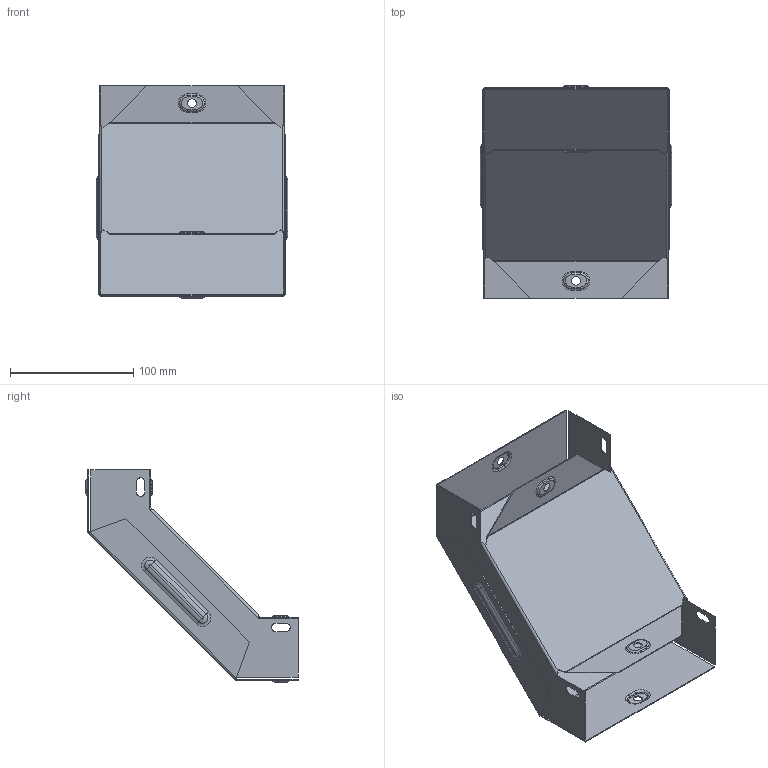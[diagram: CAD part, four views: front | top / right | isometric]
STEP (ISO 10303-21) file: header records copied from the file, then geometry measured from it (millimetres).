
FILE_DESCRIPTION (( 'STEP AP214' ), '1' );
FILE_NAME ('vo9050150_捘.STEP', '2019-06-10T08:51:47', ( '砐錪賧瘔蠈錪 Windows' ), ( '' ), 'SwSTEP 2.0', 'SolidWorks 2018', '' );
FILE_SCHEMA (( 'AUTOMOTIVE_DESIGN' ));
Length unit declared in the file: millimetre
Products named in the file (1): vo9050150_捘
Bounding box: 155.6 x 172.3 x 172.3 mm (x, y, z)
Volume: 77058.4 mm3; surface area: 194548.7 mm2
Topology: 2 solids, 2 shells, 262 faces, 606 edges, 364 vertices
Faces by surface type: cylinder 98, plane 92, torus 64, bspline 8
Entity records: 7621 total; most frequent: CARTESIAN_POINT 1481, DIRECTION 1360, ORIENTED_EDGE 1212, EDGE_CURVE 606, AXIS2_PLACEMENT_3D 531, VERTEX_POINT 364, LINE 298, VECTOR 298
